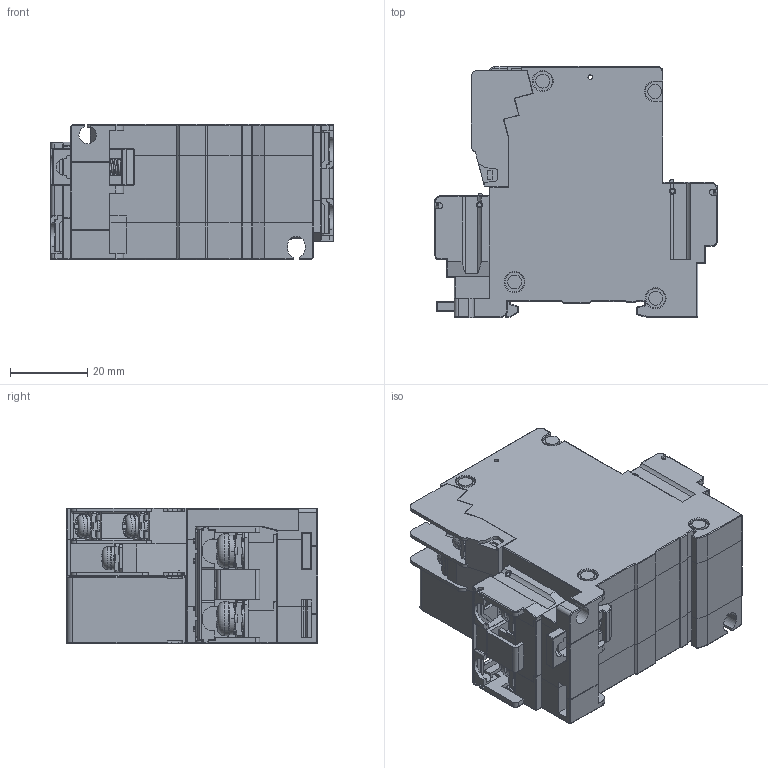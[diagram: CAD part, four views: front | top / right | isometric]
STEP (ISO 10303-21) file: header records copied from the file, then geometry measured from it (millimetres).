
FILE_DESCRIPTION (( 'STEP AP203' ), '1' );
FILE_NAME ('Total Ass''y(Aux Type)(2P).STEP', '2018-11-29T02:24:08', ( '' ), ( '' ), 'SwSTEP 2.0', 'SolidWorks 2015', '' );
FILE_SCHEMA (( 'CONFIG_CONTROL_DESIGN' ));
Length unit declared in the file: millimetre
Products named in the file (27): 餌陝 Washer(M5); Total Ass''y(Aux Type)(2P); Line Terminal Ass''y(CP30DN4001); Wave Washer(M5); Aux Handle(2P)(CP30DN6008); PH Swrew(M3.5X8); Load Terminal(CP30DN5005); Aux Terminal(CP30DN5006); Self Up Screw(M3.5)(CP30DN 7303); Cover(CP30DN6002); 餌陝 Washer(M3.5); Terminal Cover(2P)(CP30DN 6011; Aux Body Ass''y(E)(CP30DN4008); Dust Cover(CP30DN6014); Din Rail(CP30DN6006); Base(CP30DN6001); Self Up Screw(M5)(CP30DN 7305); Line Terminal(CP30DN5004); Aux Body(CP30DN6013); Din Rail Spring(CP30DN8001); PH Swrew(M5X10); Din Rail Ass''y(CP30DN 4005); C-Base(CP30DN 6003); Base Rivet(2P)(CP30DN7603); Pin(CP30DN7001); Handle(CP30DN6004); Wave Washer(M3.5)
Assembly tree (40 placements, depth 4):
  Total Ass''y(Aux Type)(2P)
    Base(CP30DN6001)
    Cover(CP30DN6002)
    Pin(CP30DN7001)
    Handle(CP30DN6004)  x2
    Line Terminal Ass''y(CP30DN4001)  x2
      Line Terminal(CP30DN5004)
    Load Terminal(CP30DN5005)  x2
    Self Up Screw(M5)(CP30DN 7305)  x4
      PH Swrew(M5X10)
      餌陝 Washer(M5)
      Wave Washer(M5)
    Dust Cover(CP30DN6014)
    C-Base(CP30DN 6003)
    Aux Body Ass''y(E)(CP30DN4008)
      Aux Body(CP30DN6013)
      Aux Terminal(CP30DN5006)  x3
      Self Up Screw(M3.5)(CP30DN 7303)  x3
        PH Swrew(M3.5X8)
        餌陝 Washer(M3.5)
        Wave Washer(M3.5)
    Terminal Cover(2P)(CP30DN 6011  x2
    Aux Handle(2P)(CP30DN6008)
    Din Rail Ass''y(CP30DN 4005)
      Din Rail(CP30DN6006)
      Din Rail Spring(CP30DN8001)
    Base Rivet(2P)(CP30DN7603)  x4
Bounding box: 73.4 x 65.05 x 35 mm (x, y, z)
Volume: 43474.7 mm3; surface area: 68474.7 mm2
Topology: 45 solids, 46 shells, 4795 faces, 13196 edges, 8442 vertices
Faces by surface type: plane 3078, cylinder 1220, torus 188, cone 122, sphere 121, bspline 66
Entity records: 124036 total; most frequent: CARTESIAN_POINT 27095, ORIENTED_EDGE 20094, DIRECTION 19024, EDGE_CURVE 10047, LINE 7540, VECTOR 7540, VERTEX_POINT 6429, AXIS2_PLACEMENT_3D 5742
